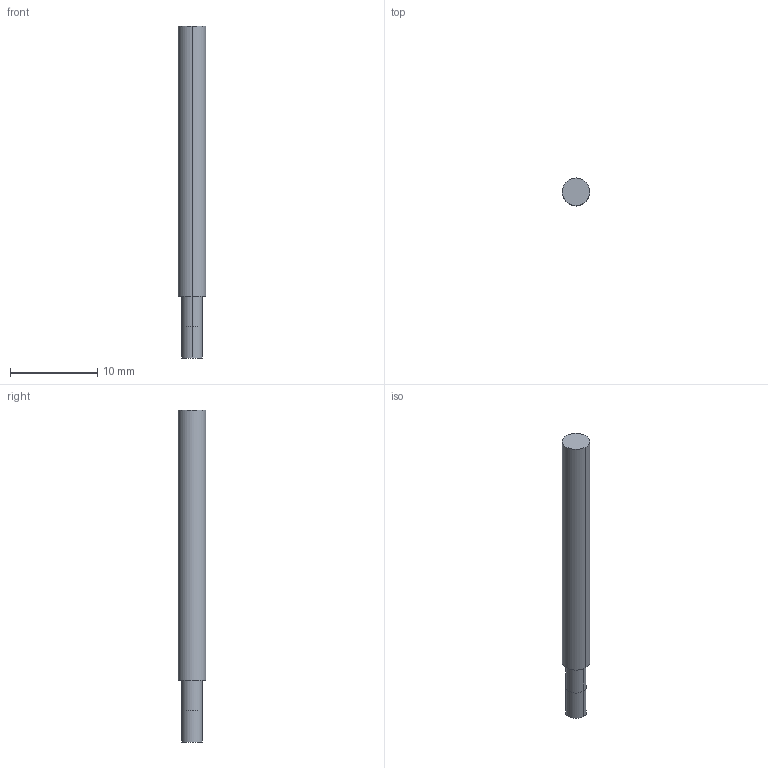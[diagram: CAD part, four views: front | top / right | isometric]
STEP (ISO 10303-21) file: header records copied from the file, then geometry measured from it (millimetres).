
FILE_DESCRIPTION((' '),'2;1');
FILE_NAME( '3MVS0938N3AH.stp', '2026-01-21T19:09:29', (' '), ('--- Datakit www.datakit.com---'), ' Datakit CrossCadWare V2025.4 Sep 19 2025', 'Mastercam 2027', ' ');
FILE_SCHEMA(('AUTOMOTIVE_DESIGN { 1 0 10303 214 1 1 1 1 }'));
Length unit declared in the file: inch
Products named in the file (1): 3MVS0938N3AH
Bounding box: 3.17 x 3.17 x 38.1 mm (x, y, z)
Volume: 277.1 mm3; surface area: 378.2 mm2
Topology: 1 solids, 1 shells, 9 faces, 16 edges, 10 vertices
Faces by surface type: cylinder 6, plane 3
Entity records: 302 total; most frequent: DIRECTION 54, CARTESIAN_POINT 40, ORIENTED_EDGE 32, AXIS2_PLACEMENT_3D 24, EDGE_CURVE 16, VERTEX_POINT 10, CIRCLE 10, EDGE_LOOP 10
